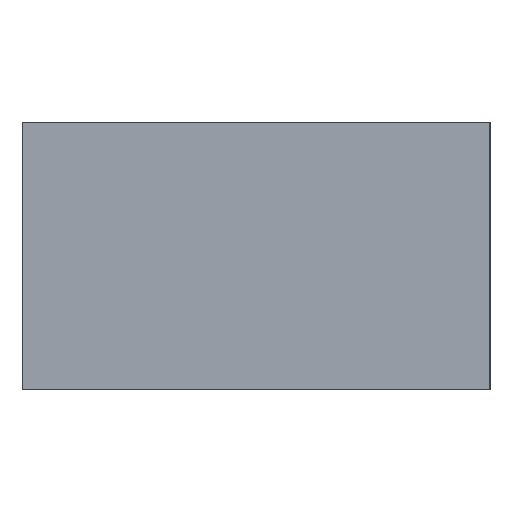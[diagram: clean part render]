
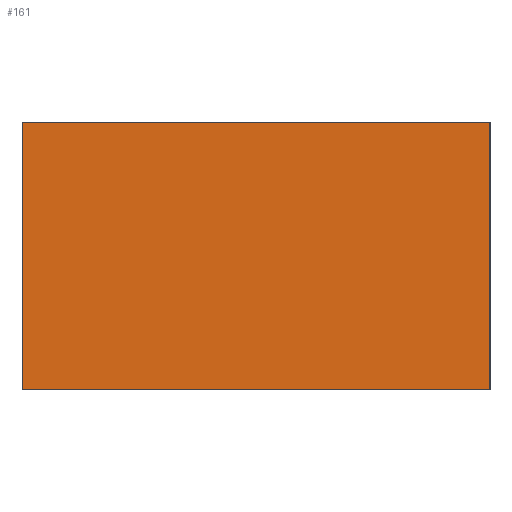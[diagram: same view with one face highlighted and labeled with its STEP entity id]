
A CAD part, front view. The second image highlights one B-rep face of the part: STEP entity #161.
In plain terms, the highlighted planar face has unit normal (0, -1, 0).
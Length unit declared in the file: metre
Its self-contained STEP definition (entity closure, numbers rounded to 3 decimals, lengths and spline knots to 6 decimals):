
#33=ORIENTED_EDGE('',*,*,#67,.F.);
#34=ORIENTED_EDGE('',*,*,#60,.F.);
#35=ORIENTED_EDGE('',*,*,#68,.T.);
#36=ORIENTED_EDGE('',*,*,#65,.T.);
#60=EDGE_CURVE('',#78,#76,#92,.T.);
#65=EDGE_CURVE('',#82,#81,#97,.T.);
#67=EDGE_CURVE('',#76,#81,#99,.T.);
#68=EDGE_CURVE('',#78,#82,#100,.T.);
#76=VERTEX_POINT('',#255);
#78=VERTEX_POINT('',#259);
#81=VERTEX_POINT('',#269);
#82=VERTEX_POINT('',#271);
#92=LINE('',#260,#104);
#97=LINE('',#270,#109);
#99=LINE('',#274,#111);
#100=LINE('',#275,#112);
#104=VECTOR('',#208,1.);
#109=VECTOR('',#217,1.);
#111=VECTOR('',#221,1.);
#112=VECTOR('',#222,1.);
#116=EDGE_LOOP('',(#33,#34,#35,#36));
#134=FACE_BOUND('',#116,.T.);
#152=PLANE('',#186);
#161=ADVANCED_FACE('',(#134),#152,.T.);
#186=AXIS2_PLACEMENT_3D('',#273,#219,#220);
#208=DIRECTION('',(0.,0.,-1.));
#217=DIRECTION('',(0.,0.,-1.));
#219=DIRECTION('',(0.,-1.,0.));
#220=DIRECTION('',(0.,0.,-1.));
#221=DIRECTION('',(-1.,0.,0.));
#222=DIRECTION('',(-1.,0.,0.));
#255=CARTESIAN_POINT('',(0.008334,-0.154781,0.));
#259=CARTESIAN_POINT('',(0.008334,-0.154781,0.009525));
#260=CARTESIAN_POINT('',(0.008334,-0.154781,0.009525));
#269=CARTESIAN_POINT('',(-0.008334,-0.154781,0.));
#270=CARTESIAN_POINT('',(-0.008334,-0.154781,0.009525));
#271=CARTESIAN_POINT('',(-0.008334,-0.154781,0.009525));
#273=CARTESIAN_POINT('',(0.,-0.154781,0.009525));
#274=CARTESIAN_POINT('',(0.,-0.154781,0.));
#275=CARTESIAN_POINT('',(0.,-0.154781,0.009525));
